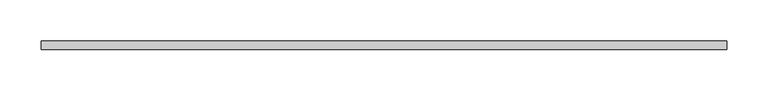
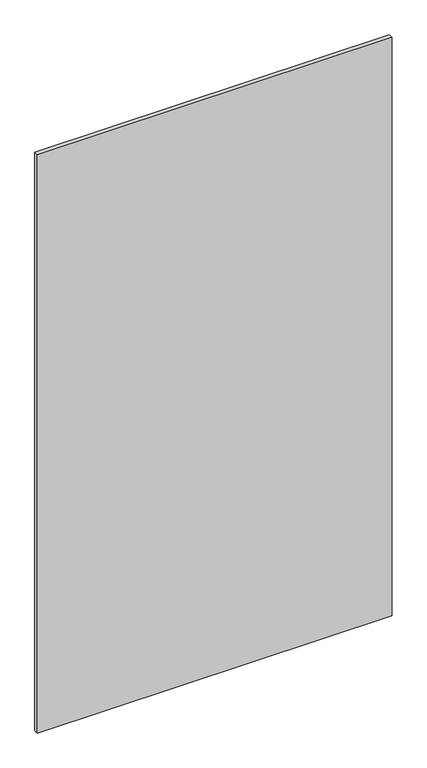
"""IFC4 building model written with IfcOpenShell, lengths in millimetres: plate geometry, システム パネル : 標準."""

from ifc_helpers import new_model, si_unit, origin, origin_with_axes, place, context, project, spatial, polyline, outline, extrude, source, transform, mapped, element, save


def plate_582e668a(model_context):
    return source(origin(), model_context, "Body", "SweptSolid", [
        extrude(outline(polyline([(415.0, -5.0), (-415.0, -5.0), (-415.0, 5.0), (415.0, 5.0), (415.0, -5.0)])), origin_with_axes(), (0.0, 0.0, 1.0), 1430.0),
    ])


if __name__ == "__main__":
    model = new_model("IFC4")
    model_context = context("Model", 3, world=origin())
    ifc_project = project(units=[si_unit("LENGTHUNIT", "METRE", prefix="MILLI")], contexts=[model_context])
    site = spatial("IfcSite", under=ifc_project)
    building = spatial("IfcBuilding", under=site)
    placement = place(None, origin())
    plate_shape = plate_582e668a(model_context)
    element("IfcPlate", 1, ObjectType="システム パネル : 標準", at=placement, inside=building, context=model_context, shape_type="MappedRepresentation", body=[
        mapped(plate_shape, transform((0.0, 0.0, 0.0), x_axis=(1.0, 0.0, 0.0), y_axis=(0.0, 1.0, 0.0), z_axis=(0.0, 0.0, 1.0))),
    ])
    save(model, "model.ifc")
